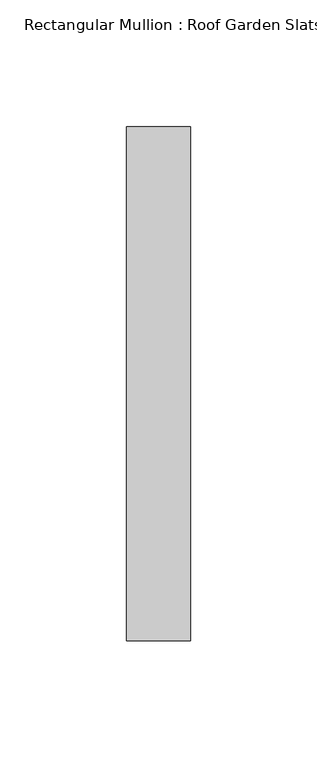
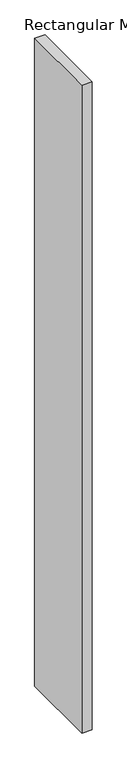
"""IFC4 building model written with IfcOpenShell, lengths in millimetres: member geometry, Rectangular Mullion : Roof Garden Slats."""

import ifcopenshell
import ifcopenshell.guid

model = None  # the IFC model being written
_history = None  # IfcOwnerHistory: only IFC2X3 demands one
_inside = {}  # id of a spatial element -> (the spatial element, [elements in it])
_under = {}  # id of a project, library or spatial element -> (it, [spatial elements below it])
_declared = {}  # id of a project -> (the project, [libraries it declares])
_typed = {}  # id of a type object -> (the type object, [elements of that type])
_made_of = {}  # id of a material, layer set ... -> (it, [elements and type objects made of it])


def new_model(schema):
    """Start an empty IFC model of exactly this schema.

    Asked for "IFC4X3", IfcOpenShell would pick the latest addendum, in which some entities
    have other attributes; the version numbers below select the first issue.
    IFC2X3 requires an IfcOwnerHistory on every rooted entity: one is made here for all.
    """
    global model, _history
    if schema == "IFC4X3":
        model = ifcopenshell.file(schema_version=(4, 3, 0, 0))
    else:
        model = ifcopenshell.file(schema=schema)
    _inside.clear()
    _under.clear()
    _declared.clear()
    _typed.clear()
    _made_of.clear()
    _history = None
    if model.schema == "IFC2X3":
        org = make("IfcOrganization", Name="unknown")
        user = make(
            "IfcPersonAndOrganization",
            ThePerson=make("IfcPerson", FamilyName="unknown"),
            TheOrganization=org,
        )
        app = make(
            "IfcApplication",
            ApplicationDeveloper=org,
            Version="unknown",
            ApplicationFullName="unknown",
            ApplicationIdentifier="unknown",
        )
        _history = make(
            "IfcOwnerHistory",
            OwningUser=user,
            OwningApplication=app,
            ChangeAction="ADDED",
            CreationDate=0,
        )
    return model


def make(cls, **values):
    """One entity of the class cls with the attributes given. An attribute that is None is left unset."""
    return model.create_entity(
        cls, **{name: value for name, value in values.items() if value is not None}
    )


def rooted(cls, **values):
    """An entity with a GlobalId (a new one), such as an element, a storey or a relation."""
    return make(cls, GlobalId=ifcopenshell.guid.new(), OwnerHistory=_history, **values)


def si_unit(unit_type, name, prefix=None):
    """IfcSIUnit, for example si_unit("LENGTHUNIT", "METRE", prefix="MILLI")."""
    return make("IfcSIUnit", UnitType=unit_type, Prefix=prefix, Name=name)


def assignment(units):
    """IfcUnitAssignment: the units of a project."""
    return None if units is None else make("IfcUnitAssignment", Units=units)


def point(xyz):
    """IfcCartesianPoint."""
    return None if xyz is None else make("IfcCartesianPoint", Coordinates=xyz)


def direction(xyz):
    """IfcDirection."""
    return None if xyz is None else make("IfcDirection", DirectionRatios=xyz)


def frame(location, z_axis=None, x_axis=None):
    """IfcAxis2Placement3D, a coordinate frame: its origin and axes. An axis left out is left unset."""
    return make(
        "IfcAxis2Placement3D",
        Location=point(location),
        Axis=direction(z_axis),
        RefDirection=direction(x_axis),
    )


def origin():
    """The frame at (0, 0, 0) with its axes left unset."""
    return frame((0.0, 0.0, 0.0))


def place(relative_to, where):
    """IfcLocalPlacement: puts the frame where relative to a parent placement (None: the world)."""
    return make(
        "IfcLocalPlacement", PlacementRelTo=relative_to, RelativePlacement=where
    )


def context(
    kind, dimensions, precision=None, world=None, true_north=None, identifier=None
):
    """IfcGeometricRepresentationContext, for example the 3D "Model" context."""
    return make(
        "IfcGeometricRepresentationContext",
        ContextIdentifier=identifier,
        ContextType=kind,
        CoordinateSpaceDimension=dimensions,
        Precision=precision,
        WorldCoordinateSystem=world,
        TrueNorth=true_north,
    )


def project(units=None, contexts=None):
    """IfcProject with its units and contexts."""
    return rooted(
        "IfcProject",
        Name="project",
        RepresentationContexts=contexts,
        UnitsInContext=assignment(units),
    )


def spatial(cls, under=None, at=None, **own):
    """A site, building, storey or space (cls), placed at a placement, below another one or the project."""
    s = rooted(cls, ObjectPlacement=at, **own)
    if under is not None:
        _under.setdefault(under.id(), (under, []))[1].append(s)
    return s


def polyline(points):
    """IfcPolyline through the points."""
    return make("IfcPolyline", Points=[point(p) for p in points])


def outline(outer, holes=None, kind="AREA"):
    """IfcArbitraryClosedProfileDef: a profile drawn as a closed curve; with holes, ...WithVoids."""
    if holes is None:
        return make("IfcArbitraryClosedProfileDef", ProfileType=kind, OuterCurve=outer)
    return make(
        "IfcArbitraryProfileDefWithVoids",
        ProfileType=kind,
        OuterCurve=outer,
        InnerCurves=holes,
    )


def extrude(swept, where, along, depth):
    """IfcExtrudedAreaSolid: the profile swept, set in the frame where, extruded along a direction by depth."""
    return make(
        "IfcExtrudedAreaSolid",
        SweptArea=swept,
        Position=where,
        ExtrudedDirection=direction(along),
        Depth=depth,
    )


def shape(context_of_items, identifier, shape_type, items):
    """IfcShapeRepresentation: the items that make up one representation, for example the "Body"."""
    return make(
        "IfcShapeRepresentation",
        ContextOfItems=context_of_items,
        RepresentationIdentifier=identifier,
        RepresentationType=shape_type,
        Items=items,
    )


def source(mapping_origin, context_of_items, identifier, shape_type, items):
    """IfcRepresentationMap: a shape defined once, which mapped items show again and again."""
    return make(
        "IfcRepresentationMap",
        MappingOrigin=mapping_origin,
        MappedRepresentation=shape(context_of_items, identifier, shape_type, items),
    )


def transform(
    local_origin,
    x_axis=None,
    y_axis=None,
    z_axis=None,
    scale=None,
    scale2=None,
    scale3=None,
    uniform=True,
):
    """IfcCartesianTransformationOperator3D, or its non-uniform kind. x_axis, y_axis, z_axis: its Axis1, 2, 3."""
    if uniform:
        return make(
            "IfcCartesianTransformationOperator3D",
            Axis1=direction(x_axis),
            Axis2=direction(y_axis),
            LocalOrigin=point(local_origin),
            Scale=scale,
            Axis3=direction(z_axis),
        )
    return make(
        "IfcCartesianTransformationOperator3DnonUniform",
        Axis1=direction(x_axis),
        Axis2=direction(y_axis),
        LocalOrigin=point(local_origin),
        Scale=scale,
        Axis3=direction(z_axis),
        Scale2=scale2,
        Scale3=scale3,
    )


def mapped(mapping_source, mapping_target):
    """IfcMappedItem: shows the shape of a source again, moved by a transform."""
    return make(
        "IfcMappedItem", MappingSource=mapping_source, MappingTarget=mapping_target
    )


def made_of(thing, what):
    """Note that an element or type object is made of a material, layer set ...; save() writes the relation."""
    if what is not None:
        _made_of.setdefault(what.id(), (what, []))[1].append(thing)
    return thing


def element(
    cls,
    number,
    at=None,
    inside=None,
    cuts=None,
    type_object=None,
    material=None,
    context=None,
    identifier="Body",
    shape_type=None,
    held_by="IfcProductDefinitionShape",
    body=None,
    shapes=None,
    **own,
):
    """One element of the class cls, such as IfcWall. Its Tag is "e" and its number.

    at: its placement. inside: the storey or other place that contains it. cuts: it is an
    opening in that element (IfcRelVoidsElement). A single representation is given by context,
    identifier, shape_type and body (its items); several are given by shapes. held_by: the class
    of the entity that holds the representations. save() writes the other relations.
    """
    e = rooted(cls, Tag="e%d" % number, ObjectPlacement=at, **own)
    if body is not None:
        shapes = [shape(context, identifier, shape_type, body)]
    if shapes is not None:
        e.Representation = make(held_by, Representations=shapes)
    if inside is not None:
        _inside.setdefault(inside.id(), (inside, []))[1].append(e)
    if cuts is not None:
        rooted(
            "IfcRelVoidsElement", RelatingBuildingElement=cuts, RelatedOpeningElement=e
        )
    if type_object is not None:
        _typed.setdefault(type_object.id(), (type_object, []))[1].append(e)
    return made_of(e, material)


def aggregate(whole, parts):
    """IfcRelAggregates: a whole, such as a stair, and the parts it consists of."""
    return rooted("IfcRelAggregates", RelatingObject=whole, RelatedObjects=parts)


def save(model, path):
    """Write the relations noted so far, then the file.

    IfcRelAggregates (storeys below a building ...), IfcRelContainedInSpatialStructure (elements
    in a storey), IfcRelDefinesByType, IfcRelAssociatesMaterial and IfcRelDeclares: one each for
    every whole, place, type object, material and project.
    """
    for whole, parts in _under.values():
        aggregate(whole, parts)
    for where, things in _inside.values():
        rooted(
            "IfcRelContainedInSpatialStructure",
            RelatedElements=things,
            RelatingStructure=where,
        )
    for kind, things in _typed.values():
        rooted("IfcRelDefinesByType", RelatedObjects=things, RelatingType=kind)
    for what, things in _made_of.values():
        rooted("IfcRelAssociatesMaterial", RelatedObjects=things, RelatingMaterial=what)
    for by, libraries in _declared.values():
        rooted("IfcRelDeclares", RelatingContext=by, RelatedDefinitions=libraries)
    model.write(path)


def rectangular_mullion_roof_garden_slats_79a9f6a1(model_context):
    return source(origin(), model_context, "Body", "SweptSolid", [
        extrude(outline(polyline([(12.7, 139.7), (12.7, -63.5), (-12.7, -63.5), (-12.7, 139.7), (12.7, 139.7)])), frame((0.0, 0.0, -1701.5713217), z_axis=(0.0, 0.0, 1.0), x_axis=(1.0, 0.0, 0.0)), (0.0, 0.0, 1.0), 1701.5713217),
    ])


if __name__ == "__main__":
    model = new_model("IFC4")
    model_context = context("Model", 3, world=origin())
    ifc_project = project(units=[si_unit("LENGTHUNIT", "METRE", prefix="MILLI")], contexts=[model_context])
    site = spatial("IfcSite", under=ifc_project)
    building = spatial("IfcBuilding", under=site)
    placement = place(None, origin())
    rectangular_mullion_roof_garden_slats_shape = rectangular_mullion_roof_garden_slats_79a9f6a1(model_context)
    element("IfcMember", 1, ObjectType="Rectangular Mullion : Roof Garden Slats", at=placement, inside=building, context=model_context, shape_type="MappedRepresentation", body=[
        mapped(rectangular_mullion_roof_garden_slats_shape, transform((0.0, 0.0, 0.0), x_axis=(1.0, 0.0, 0.0), y_axis=(0.0, 1.0, 0.0), z_axis=(0.0, 0.0, 1.0))),
    ])
    save(model, "model.ifc")
